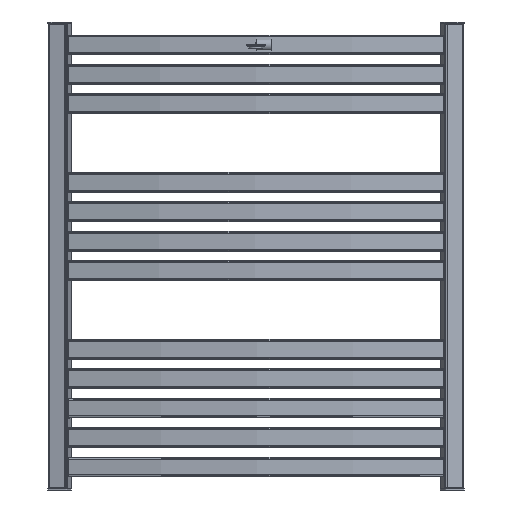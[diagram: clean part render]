
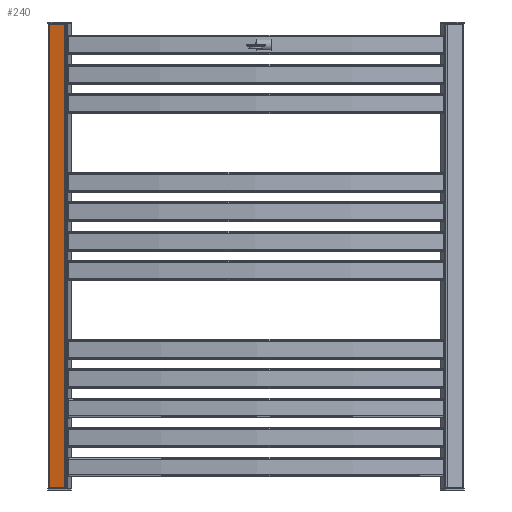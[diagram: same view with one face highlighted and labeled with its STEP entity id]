
A CAD part, front view. The second image highlights one B-rep face of the part: STEP entity #240.
In plain terms, the highlighted planar face has unit normal (-0.243, -0.97, 0) as drawn and (1, 0, 0) by its records, which use the part's own axes.
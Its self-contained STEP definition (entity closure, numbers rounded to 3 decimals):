
#240 = ADVANCED_FACE( '', ( #620 ), #621, .T. );
#620 = FACE_OUTER_BOUND( '', #1202, .T. );
#621 = PLANE( '', #1203 );
#1202 = EDGE_LOOP( '', ( #1839, #1840, #1841, #1842 ) );
#1203 = AXIS2_PLACEMENT_3D( '', #1843, #1844, #1845 );
#1839 = ORIENTED_EDGE( '', *, *, #3340, .T. );
#1840 = ORIENTED_EDGE( '', *, *, #3341, .T. );
#1841 = ORIENTED_EDGE( '', *, *, #3342, .F. );
#1842 = ORIENTED_EDGE( '', *, *, #3343, .T. );
#1843 = CARTESIAN_POINT( '', ( 15., 711., -15. ) );
#1844 = DIRECTION( '', ( 1., 0., 0. ) );
#1845 = DIRECTION( '', ( 0., 0., -1. ) );
#3340 = EDGE_CURVE( '', #3984, #3985, #3986, .T. );
#3341 = EDGE_CURVE( '', #3985, #3987, #3988, .T. );
#3342 = EDGE_CURVE( '', #3989, #3987, #3990, .T. );
#3343 = EDGE_CURVE( '', #3989, #3984, #3991, .F. );
#3984 = VERTEX_POINT( '', #4914 );
#3985 = VERTEX_POINT( '', #4915 );
#3986 = LINE( '', #4916, #4917 );
#3987 = VERTEX_POINT( '', #4918 );
#3988 = LINE( '', #4919, #4920 );
#3989 = VERTEX_POINT( '', #4921 );
#3990 = LINE( '', #4922, #4923 );
#3991 = LINE( '', #4924, #4925 );
#4914 = CARTESIAN_POINT( '', ( 15., 711., -12. ) );
#4915 = CARTESIAN_POINT( '', ( 15., 711., 12. ) );
#4916 = CARTESIAN_POINT( '', ( 15., 711., -15. ) );
#4917 = VECTOR( '', #6057, 1000. );
#4918 = CARTESIAN_POINT( '', ( 15., 0., 12. ) );
#4919 = CARTESIAN_POINT( '', ( 15., 711., 12. ) );
#4920 = VECTOR( '', #6058, 1000. );
#4921 = CARTESIAN_POINT( '', ( 15., 0., -12. ) );
#4922 = CARTESIAN_POINT( '', ( 15., 0., -15. ) );
#4923 = VECTOR( '', #6059, 1000. );
#4924 = CARTESIAN_POINT( '', ( 15., 711., -12. ) );
#4925 = VECTOR( '', #6060, 1000. );
#6057 = DIRECTION( '', ( 0., 0., 1. ) );
#6058 = DIRECTION( '', ( 0., -1., 0. ) );
#6059 = DIRECTION( '', ( 0., 0., 1. ) );
#6060 = DIRECTION( '', ( 0., -1., 0. ) );
